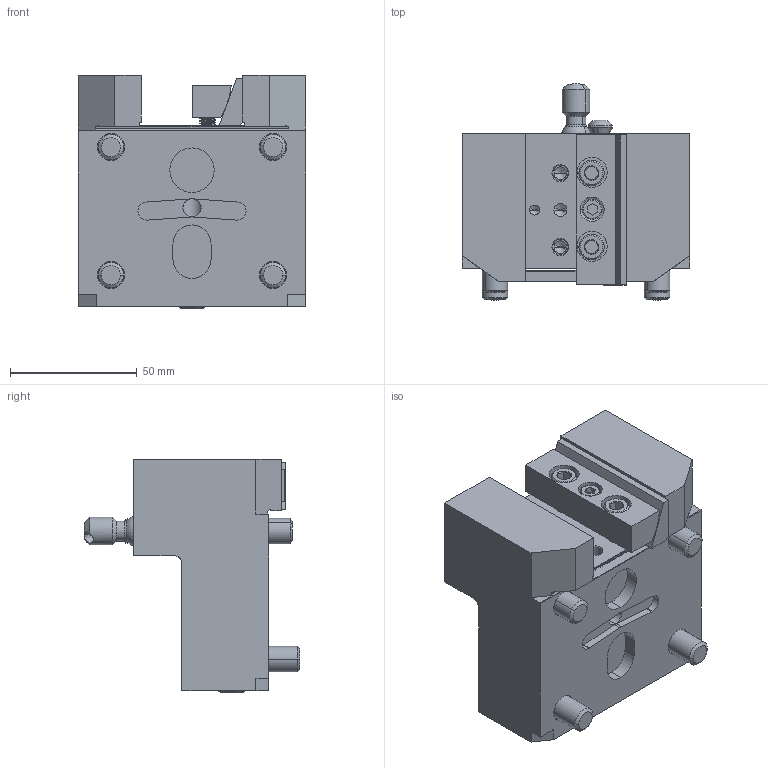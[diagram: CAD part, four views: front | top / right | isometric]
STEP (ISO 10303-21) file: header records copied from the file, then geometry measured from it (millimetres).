
FILE_DESCRIPTION (( 'STEP AP203' ), '1' );
FILE_NAME ('04-0792.STEP', '2022-07-12T16:07:34', ( '' ), ( '' ), 'SwSTEP 2.0', 'SolidWorks 2021', '' );
FILE_SCHEMA (( 'CONFIG_CONTROL_DESIGN' ));
Length unit declared in the file: inch
Products named in the file (15): 40-0011_40-0011; 58-1627; 40-1626_40-1626; 40-0003_40-0003; 20-10449; 22-8749; 10000015933; 20-3797; 57-0026; 04-0792; 10000016468; 40-1640; 10000011372; 20-3796; 40-16582_40-16582
Assembly tree (17 placements, depth 3):
  04-0792
    10000011372
      20-10449
      22-8749
      58-1627
      40-0003_40-0003
      20-3796
      20-3797
      40-1626_40-1626  x2
      40-0011_40-0011  x2
      40-1640
      40-16582_40-16582  x2
      57-0026
      10000016468
      10000015933
Bounding box: 90 x 85.2 x 92.13 mm (x, y, z)
Volume: 267662.1 mm3; surface area: 67552.4 mm2
Topology: 16 solids, 16 shells, 658 faces, 1638 edges, 1025 vertices
Faces by surface type: cylinder 335, plane 157, cone 147, torus 11, bspline 8
Entity records: 20187 total; most frequent: CARTESIAN_POINT 7397, ORIENTED_EDGE 2440, DIRECTION 2224, EDGE_CURVE 1220, AXIS2_PLACEMENT_3D 848, VERTEX_POINT 777, EDGE_LOOP 549, LINE 528
